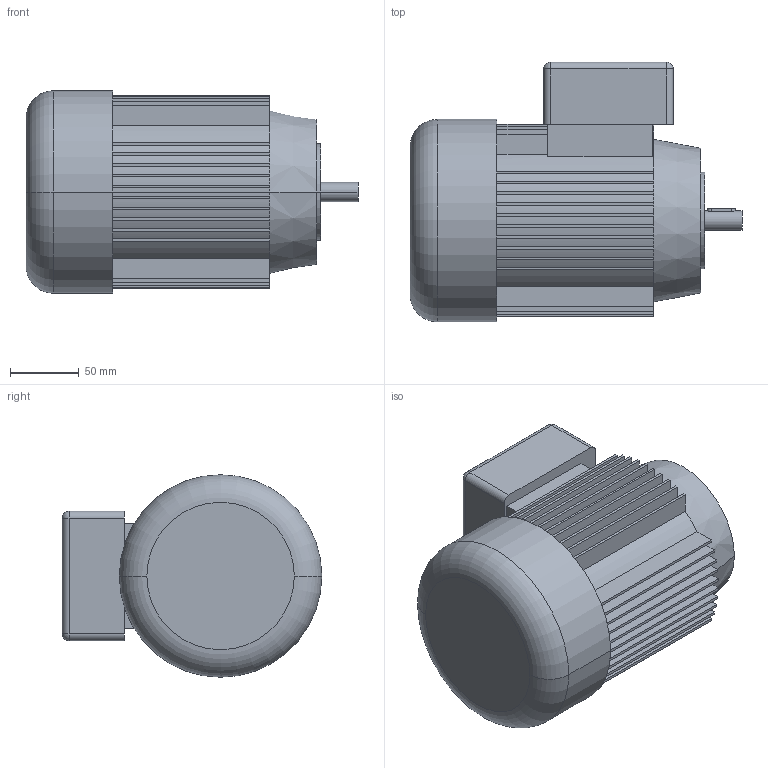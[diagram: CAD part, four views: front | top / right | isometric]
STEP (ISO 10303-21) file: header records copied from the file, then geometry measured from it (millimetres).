
FILE_DESCRIPTION (( 'STEP AP214' ), '1' );
FILE_NAME ('MR71B14.STEP', '2020-04-22T09:47:18', ( '' ), ( '' ), 'SwSTEP 2.0', 'SolidWorks 2018', '' );
FILE_SCHEMA (( 'AUTOMOTIVE_DESIGN' ));
Length unit declared in the file: millimetre
Products named in the file (3): MR71B14; ARBRE MR71B14; MR71 sans arbre
Assembly tree (2 placements, depth 2):
  MR71B14
    MR71 sans arbre
    ARBRE MR71B14
Bounding box: 241 x 188.5 x 147 mm (x, y, z)
Volume: 3214636.8 mm3; surface area: 235884.3 mm2
Topology: 3 solids, 3 shells, 283 faces, 776 edges, 510 vertices
Faces by surface type: plane 183, cylinder 92, sphere 4, cone 2, torus 2
Entity records: 11973 total; most frequent: CARTESIAN_POINT 1772, ORIENTED_EDGE 1544, DIRECTION 1538, EDGE_CURVE 772, LINE 574, VECTOR 574, VERTEX_POINT 510, AXIS2_PLACEMENT_3D 482
